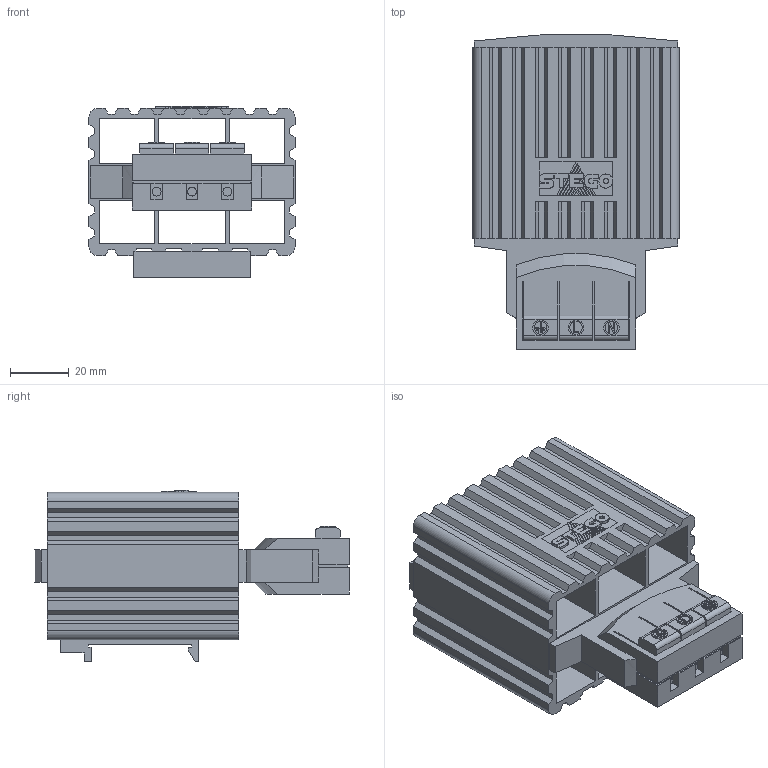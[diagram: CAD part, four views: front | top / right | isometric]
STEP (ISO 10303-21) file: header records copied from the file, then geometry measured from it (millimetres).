
FILE_DESCRIPTION (( 'STEP AP214' ), '1' );
FILE_NAME ('HG140_65mm_eplan_10_2012.STEP', '2012-11-15T13:11:58', ( 'Nutzer' ), ( '' ), 'SwSTEP 2.0', 'SolidWorks 2012', '' );
FILE_SCHEMA (( 'AUTOMOTIVE_DESIGN' ));
Length unit declared in the file: millimetre
Products named in the file (1): HG140_65mm_eplan_10_2012
Bounding box: 70 x 106.73 x 58.25 mm (x, y, z)
Volume: 137377.4 mm3; surface area: 59819.2 mm2
Topology: 10 solids, 10 shells, 501 faces, 1402 edges, 920 vertices
Faces by surface type: plane 420, bspline 46, cylinder 33, cone 2
Entity records: 16199 total; most frequent: CARTESIAN_POINT 3413, ORIENTED_EDGE 2804, DIRECTION 2288, EDGE_CURVE 1402, VECTOR 1234, LINE 1234, VERTEX_POINT 920, AXIS2_PLACEMENT_3D 527
